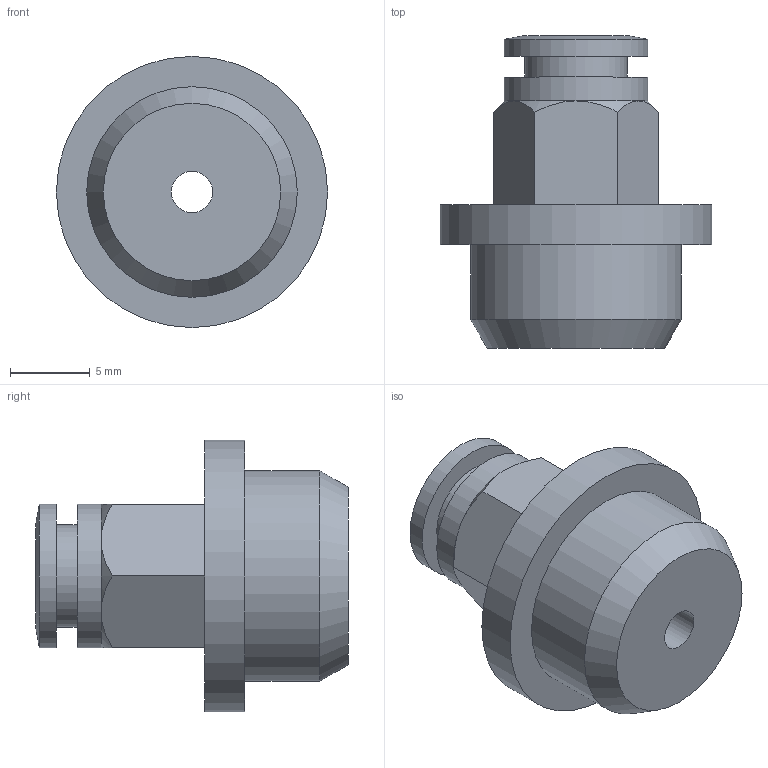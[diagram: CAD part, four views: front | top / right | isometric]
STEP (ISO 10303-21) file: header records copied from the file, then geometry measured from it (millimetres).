
FILE_DESCRIPTION((''),'2;1');
FILE_NAME('C:\Documents and Settings\rivolro1\Documenti\copia di Raccordi\T01XXXX\T010414.stp','2007-10-30T15:13:52',('Rivolro1'),(''),'Autodesk Inventor 2008','Autodesk Inventor 2008','');
FILE_SCHEMA(('AUTOMOTIVE_DESIGN { 1 0 10303 214 1 1 1 1 }'));
Length unit declared in the file: millimetre
Products named in the file (1): T010414
Bounding box: 17 x 19.6 x 17 mm (x, y, z)
Volume: 1857.8 mm3; surface area: 1407.6 mm2
Topology: 1 solids, 1 shells, 28 faces, 55 edges, 34 vertices
Faces by surface type: plane 13, cone 8, cylinder 6, bspline 1
Full cylindrical faces by diameter (mm): 4.2 x1, 6.4 x1, 9 x2, 13.2 x1, 17 x1
Entity records: 709 total; most frequent: CARTESIAN_POINT 148, DIRECTION 110, ORIENTED_EDGE 90, AXIS2_PLACEMENT_3D 49, EDGE_CURVE 45, EDGE_LOOP 44, VERTEX_POINT 33, FACE_OUTER_BOUND 28
